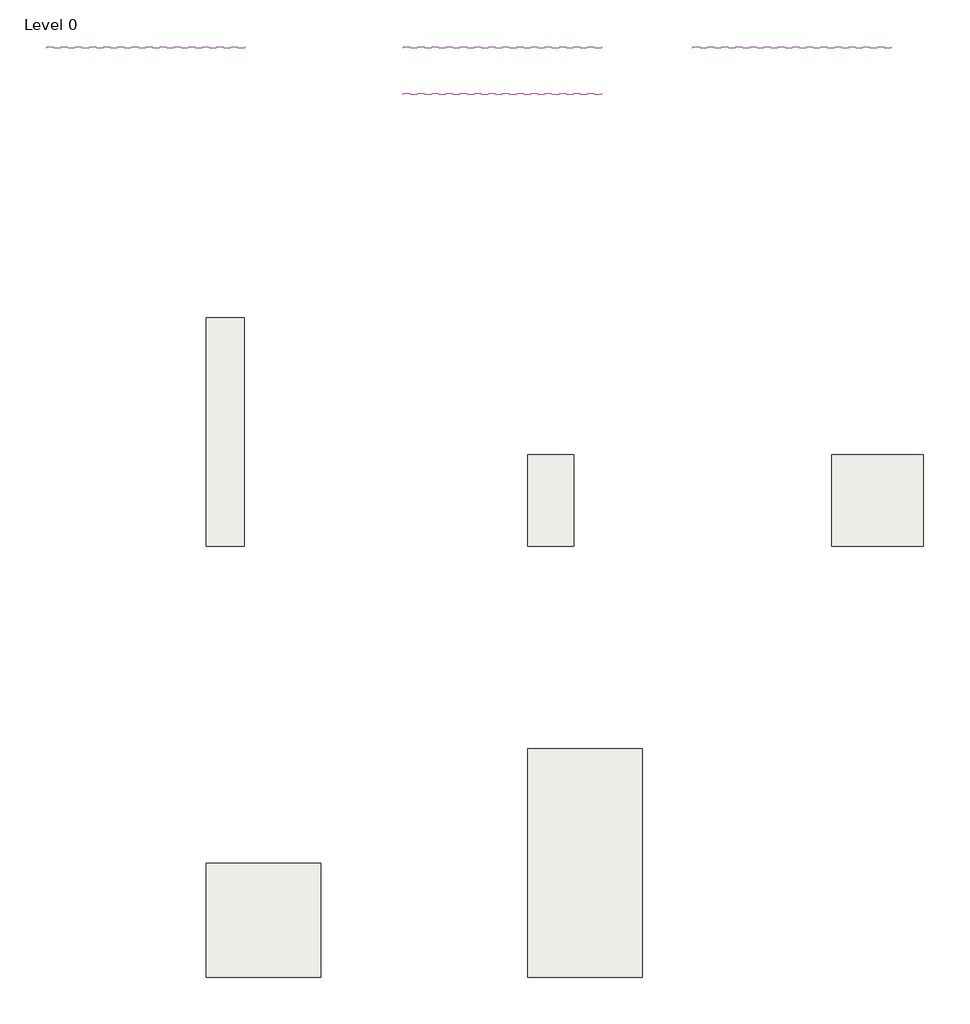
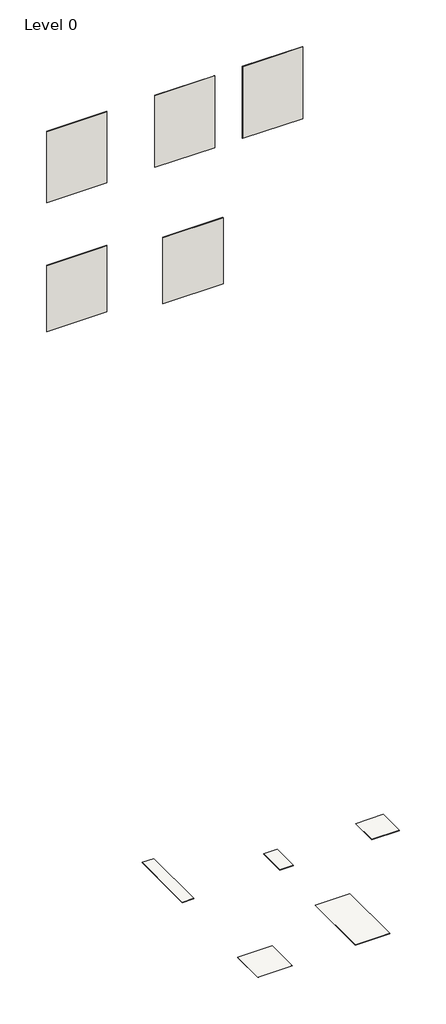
# One storey: 5 slabs, 5 walls.
"""IFC4 building model written with IfcOpenShell, lengths in millimetres."""

from ifc_helpers import new_model, si_unit, frame, origin, place, context, project, spatial, polyline, outline, extrude, element, save

model = new_model("IFC4")

# Units and contexts
model_context = context("Model", 3, world=origin())
ifc_project = project(units=[si_unit("LENGTHUNIT", "METRE", prefix="MILLI")], contexts=[model_context])

# Site, building, storey
site = spatial("IfcSite", under=ifc_project)
building = spatial("IfcBuilding", under=site)
storey = spatial("IfcBuildingStorey", under=building, Name="Level 0", Elevation=0.0)

# Slabs
placement = place(None, origin())
element("IfcSlab", 1, ObjectType="Floor_Tiles_Refin-Design-Industry-Oxyde-Light-30x60 NG51", at=placement, inside=storey, context=model_context, shape_type="SweptSolid", body=[
    extrude(outline(polyline([(9374.3752062, 5467.4110727), (9374.3752062, 4867.4110727), (9074.3752062, 4867.4110727), (9074.3752062, 5467.4110727), (9374.3752062, 5467.4110727)])), frame((0.0, 0.0, -10.0), z_axis=(0.0, 0.0, 1.0), x_axis=(1.0, 0.0, 0.0)), (0.0, 0.0, 1.0), 10.0),
])
element("IfcSlab", 2, ObjectType="Floor_Tiles_Refin-Design-Industry-Oxyde-Light-75x150 LD68", at=placement, inside=storey, context=model_context, shape_type="SweptSolid", body=[
    extrude(outline(polyline([(9824.3752062, 3539.4623743), (9824.3752062, 2039.4623743), (9074.3752062, 2039.4623743), (9074.3752062, 3539.4623743), (9824.3752062, 3539.4623743)])), frame((0.0, 0.0, -10.0), z_axis=(0.0, 0.0, 1.0), x_axis=(1.0, 0.0, 0.0)), (0.0, 0.0, 1.0), 10.0),
])
element("IfcSlab", 3, ObjectType="Floor_Tiles_Refin-Design-Industry-Oxyde-Light-60x60 LE57", at=placement, inside=storey, context=model_context, shape_type="SweptSolid", body=[
    extrude(outline(polyline([(11667.3924055, 5466.3679048), (11667.3924055, 4866.3679048), (11067.3924055, 4866.3679048), (11067.3924055, 5466.3679048), (11667.3924055, 5466.3679048)])), frame((0.0, 0.0, -10.0), z_axis=(0.0, 0.0, 1.0), x_axis=(1.0, 0.0, 0.0)), (0.0, 0.0, 1.0), 10.0),
])
element("IfcSlab", 4, ObjectType="Floor_Tiles_Refin-Design-Industry-Oxyde-Light-75x75 LE49", at=placement, inside=storey, context=model_context, shape_type="SweptSolid", body=[
    extrude(outline(polyline([(7715.6181323, 2789.4623743), (7715.6181323, 2039.4623743), (6965.6181323, 2039.4623743), (6965.6181323, 2789.4623743), (7715.6181323, 2789.4623743)])), frame((0.0, 0.0, -10.0), z_axis=(0.0, 0.0, 1.0), x_axis=(1.0, 0.0, 0.0)), (0.0, 0.0, 1.0), 10.0),
])
element("IfcSlab", 5, ObjectType="Floor_Tiles_Refin-Design-Industry-Oxyde-Light-25x150 LE88", at=placement, inside=storey, context=model_context, shape_type="SweptSolid", body=[
    extrude(outline(polyline([(7215.6181323, 6367.4110727), (7215.6181323, 4867.4110727), (6965.6181323, 4867.4110727), (6965.6181323, 6367.4110727), (7215.6181323, 6367.4110727)])), frame((0.0, 0.0, -10.0), z_axis=(0.0, 0.0, 1.0), x_axis=(1.0, 0.0, 0.0)), (0.0, 0.0, 1.0), 10.0),
])

# Walls
element("IfcWall", 6, ObjectType="Wall_Tiles_Refin-Design-Industry-Oxyde_Light-30x60 NG51", at=placement, inside=storey, context=model_context, shape_type="SweptSolid", body=[
    extrude(outline(polyline([(9557.3752062, 8132.3838631), (8257.3752062, 8132.3838631), (8257.3752062, 8142.3838631), (9557.3752062, 8142.3838631), (9557.3752062, 8132.3838631)])), frame((0.0, 0.0, 14387.6770443), z_axis=(0.0, 0.0, 1.0), x_axis=(1.0, 0.0, 0.0)), (0.0, 0.0, 1.0), 1641.7417352),
])
element("IfcWall", 7, ObjectType="Wall_Tiles_Refin-Design-Industry-Oxyde_Light-25x150 LE88", at=placement, inside=storey, context=model_context, shape_type="SweptSolid", body=[
    extrude(outline(polyline([(7217.3752062, 8132.3838631), (5917.3752062, 8132.3838631), (5917.3752062, 8142.3838631), (7217.3752062, 8142.3838631), (7217.3752062, 8132.3838631)])), frame((0.0, 0.0, 14403.7267346), z_axis=(0.0, 0.0, 1.0), x_axis=(1.0, 0.0, 0.0)), (0.0, 0.0, 1.0), 1625.692045),
])
element("IfcWall", 8, ObjectType="Wall_Tiles_Refin-Design-Industry-Oxyde_Light-75x150 LD68", at=placement, inside=storey, context=model_context, shape_type="SweptSolid", body=[
    extrude(outline(polyline([(9557.3752062, 7827.3838631), (8257.3752062, 7827.3838631), (8257.3752062, 7837.3838631), (9557.3752062, 7837.3838631), (9557.3752062, 7827.3838631)])), frame((0.0, 0.0, 11452.5436262), z_axis=(0.0, 0.0, 1.0), x_axis=(1.0, 0.0, 0.0)), (0.0, 0.0, 1.0), 1513.1985566),
])
element("IfcWall", 9, ObjectType="Wall_Tiles_Refin-Design-Industry-Oxyde_Light-75x75 LE49", at=placement, inside=storey, context=model_context, shape_type="SweptSolid", body=[
    extrude(outline(polyline([(7217.3752062, 8132.3838631), (5917.3752062, 8132.3838631), (5917.3752062, 8142.3838631), (7217.3752062, 8142.3838631), (7217.3752062, 8132.3838631)])), frame((0.0, 0.0, 11449.8719237), z_axis=(0.0, 0.0, 1.0), x_axis=(1.0, 0.0, 0.0)), (0.0, 0.0, 1.0), 1510.1280763),
])
element("IfcWall", 10, ObjectType="Wall_Tiles_Refin-Design-Industry-Oxyde_Light-60x60 LE57", at=placement, inside=storey, context=model_context, shape_type="SweptSolid", body=[
    extrude(outline(polyline([(11457.3752062, 8132.3838631), (10157.3752062, 8132.3838631), (10157.3752062, 8142.3838631), (11457.3752062, 8142.3838631), (11457.3752062, 8132.3838631)])), frame((0.0, 0.0, 14387.6770443), z_axis=(0.0, 0.0, 1.0), x_axis=(1.0, 0.0, 0.0)), (0.0, 0.0, 1.0), 1641.7417352),
])

save(model, "model.ifc")
